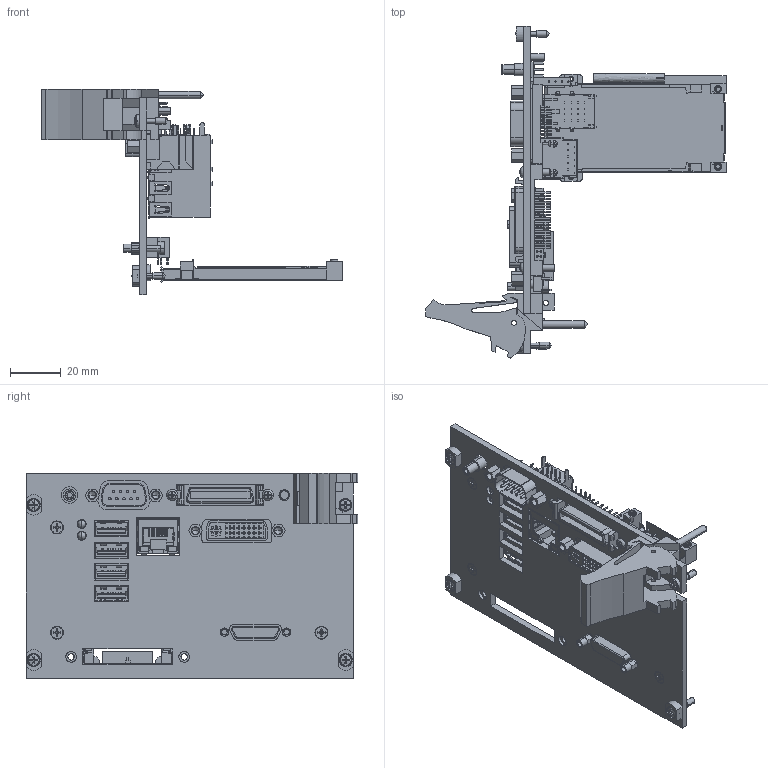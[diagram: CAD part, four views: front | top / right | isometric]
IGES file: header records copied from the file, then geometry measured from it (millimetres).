
Start section:  PTC IGES file: cu_pxi-8110.igs
Global section: file name: cu_pxi-8110.igs; native system: Pro/ENGINEER by Parametric Technology Corporation; preprocessor: 2011490; author: talbott; organization: Unknown; date: 20131018.142256; units: inch
Bounding box: 117.99 x 130.52 x 80.98 mm (x, y, z)
Surface area: 55978.9 mm2 (no closed solid volume)
Topology: 0 solids, 0 shells, 3378 faces, 17340 edges, 17300 vertices
Faces by surface type: bspline 2383, revolution 967, extrusion 28
